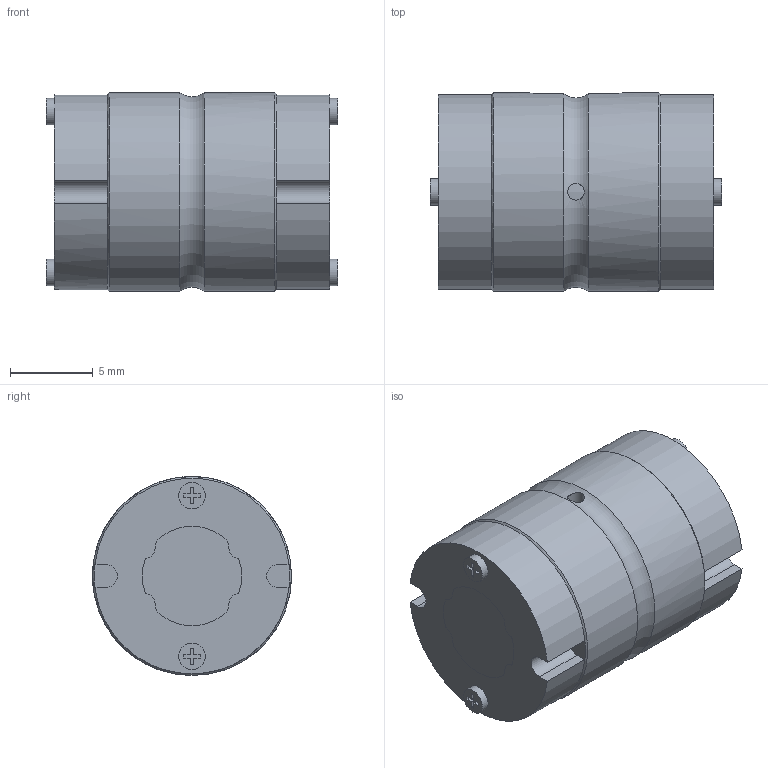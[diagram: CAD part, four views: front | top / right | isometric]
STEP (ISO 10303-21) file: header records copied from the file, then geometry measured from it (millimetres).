
FILE_DESCRIPTION(/* description */ ('STEP AP203'),/* implementation_level */ '2;1');
FILE_NAME(/* name */ 'LT6X+16.6L(00)',/* time_stamp */ '2024-05-28T07:07:06+02:00',/* author */ ('License CC BY-ND 4.0'),/* organization */ ('CADENAS'),/* preprocessor_version */ 'ST-DEVELOPER v19.3',/* originating_system */ 'PARTsolutions',/* authorisation */ ' ');
FILE_SCHEMA (('CONFIG_CONTROL_DESIGN'));
Length unit declared in the file: millimetre
Products named in the file (3): LT6X+16.6L(00); 1LT6X 16.6Shaft; 1LT6X Cylindar
Assembly tree (2 placements, depth 2):
  LT6X+16.6L(00)
    1LT6X 16.6Shaft
    1LT6X Cylindar
Bounding box: 17.6 x 12 x 12 mm (x, y, z)
Volume: 1808.5 mm3; surface area: 1554.3 mm2
Topology: 2 solids, 2 shells, 136 faces, 366 edges, 242 vertices
Faces by surface type: plane 83, cylinder 50, cone 2, torus 1
Full cylindrical faces by diameter (mm): 1 x2, 1.6 x4, 12 x2
Entity records: 4269 total; most frequent: CARTESIAN_POINT 781, DIRECTION 716, ORIENTED_EDGE 696, EDGE_CURVE 348, LINE 242, VECTOR 242, AXIS2_PLACEMENT_3D 237, VERTEX_POINT 234
